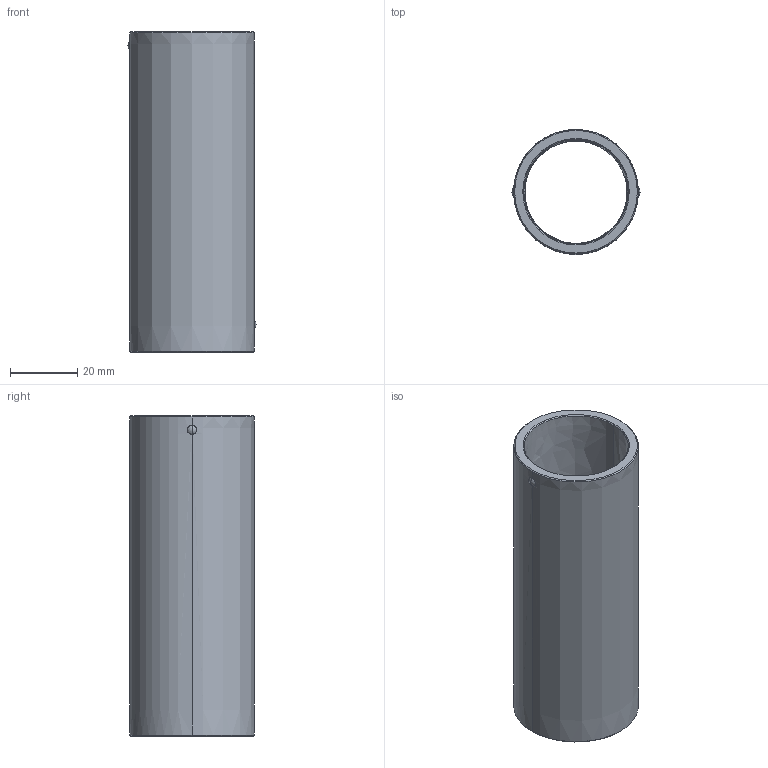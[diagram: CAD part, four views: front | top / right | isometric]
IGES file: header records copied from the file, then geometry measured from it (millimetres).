
Start section: START RECORD GO HERE.
Global section: file name: 730-30x95.igs; native system: DASSAULT SYSTEMES CATIA V5 R20 - www.3ds.com; preprocessor: CATIA Version 5 Release 20 ; author: Utente; organization: NB04-ASUS; date: 20210107.171221; units: millimetre
Bounding box: 38 x 37 x 95 mm (x, y, z)
Surface area: 21283.1 mm2 (no closed solid volume)
Topology: 0 solids, 0 shells, 44 faces, 240 edges, 240 vertices
Faces by surface type: revolution 36, plane 8
